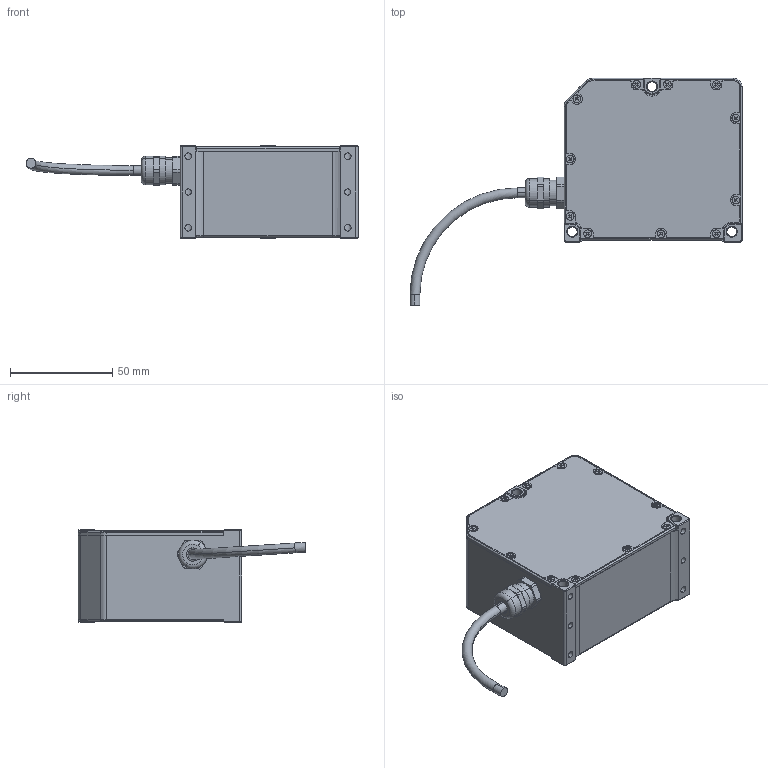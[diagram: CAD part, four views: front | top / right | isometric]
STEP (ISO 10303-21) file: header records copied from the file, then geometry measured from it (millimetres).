
FILE_DESCRIPTION (( 'STEP AP214' ), '1' );
FILE_NAME ('LED-Lichtquelle.STEP', '2006-10-25T11:18:28', ( 'Bauer' ), ( 'Micro-Epsilon Optronic' ), 'SwSTEP 2.0', 'SolidWorks 2006104', '' );
FILE_SCHEMA (( 'AUTOMOTIVE_DESIGN' ));
Length unit declared in the file: millimetre
Products named in the file (1): LED-Lichtquelle
Bounding box: 162.32 x 111.33 x 45 mm (x, y, z)
Volume: 99807.4 mm3; surface area: 90197.5 mm2
Topology: 21 solids, 21 shells, 1093 faces, 2858 edges, 1809 vertices
Faces by surface type: plane 532, cylinder 419, cone 108, torus 34
Entity records: 45864 total; most frequent: CARTESIAN_POINT 6131, DIRECTION 5907, ORIENTED_EDGE 5644, EDGE_CURVE 2822, AXIS2_PLACEMENT_3D 2024, VECTOR 1859, LINE 1859, VERTEX_POINT 1809
